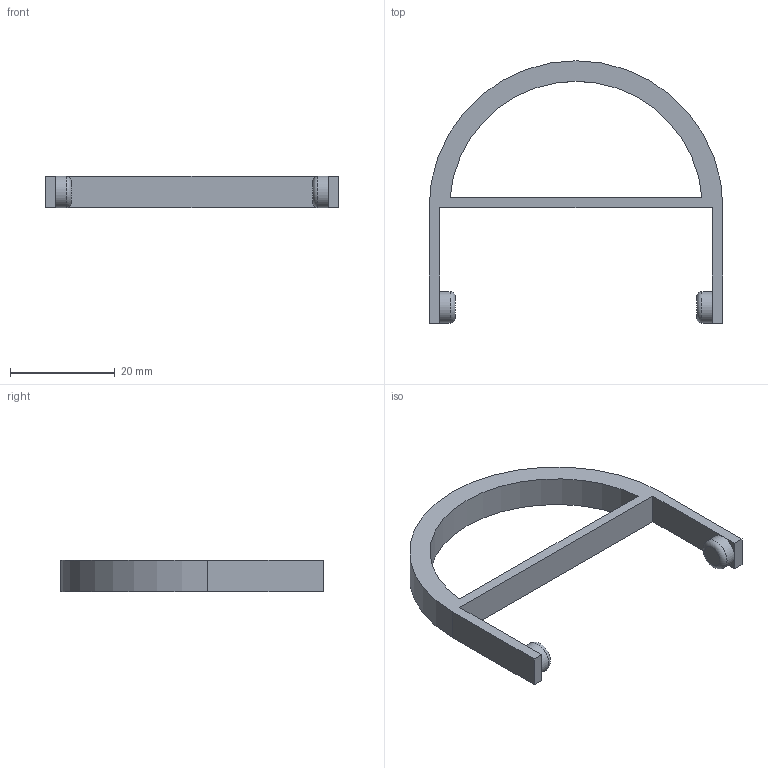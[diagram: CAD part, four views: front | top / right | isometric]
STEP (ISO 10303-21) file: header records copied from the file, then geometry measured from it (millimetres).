
FILE_DESCRIPTION(('STEP AP203'), '1');
FILE_NAME('âåøàëêà', '', ('UNSPECIFIED'), ('UNSPECIFIED'), 'ASCON STEP Converter 1.3', 'ASCON Math Kernel', '');
FILE_SCHEMA(('CONFIG_CONTROL_DESIGN'));
Length unit declared in the file: millimetre
Bounding box: 56 x 50 x 6.04 mm (x, y, z)
Volume: 3190.1 mm3; surface area: 3215.2 mm2
Topology: 1 solids, 1 shells, 20 faces, 48 edges, 30 vertices
Faces by surface type: plane 14, cylinder 4, torus 2
Full cylindrical faces by diameter (mm): 6 x2
Entity records: 766 total; most frequent: DIRECTION 100, CARTESIAN_POINT 95, ORIENTED_EDGE 88, EDGE_CURVE 44, AXIS2_PLACEMENT_3D 35, VERTEX_POINT 30, LINE 30, VECTOR 30
